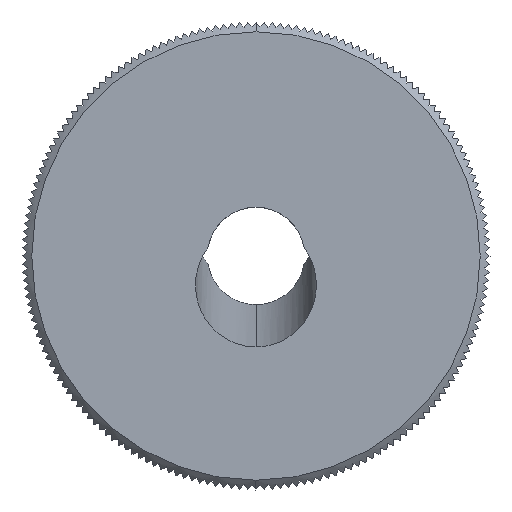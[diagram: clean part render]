
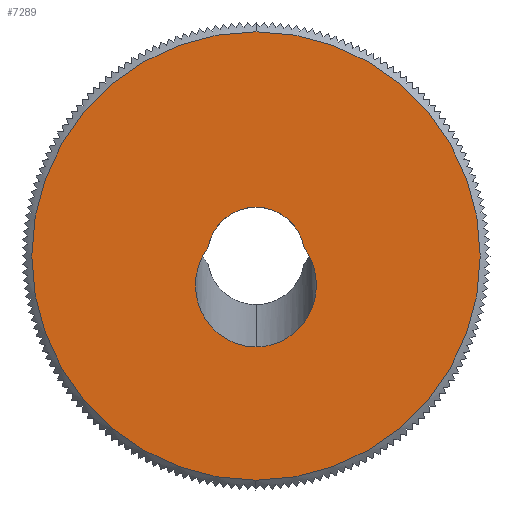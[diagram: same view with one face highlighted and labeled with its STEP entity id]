
A CAD part, left-side view. The second image highlights one B-rep face of the part: STEP entity #7289.
In plain terms, the highlighted planar face has unit normal (-1, 0, 0).
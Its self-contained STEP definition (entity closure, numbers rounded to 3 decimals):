
#3178 = CARTESIAN_POINT ( 'NONE',  ( -10., 0., 2.5 ) ) ;
#3493 = PLANE ( 'NONE',  #3552 ) ;
#3494 = FACE_OUTER_BOUND ( 'NONE', #7277, .T. ) ;
#3495 = FACE_BOUND ( 'NONE', #7195, .T. ) ;
#3530 = DIRECTION ( 'NONE',  ( 0., 0., -1. ) ) ;
#3531 = DIRECTION ( 'NONE',  ( -1., 0., 0. ) ) ;
#3532 = CARTESIAN_POINT ( 'NONE',  ( -10., 0., 0. ) ) ;
#3533 = AXIS2_PLACEMENT_3D ( 'NONE', #3532, #3531, #3530 ) ;
#3534 = CIRCLE ( 'NONE', #3533, 11.5 ) ;
#3549 = DIRECTION ( 'NONE',  ( 0., 0., -1. ) ) ;
#3550 = DIRECTION ( 'NONE',  ( 1., 0., 0. ) ) ;
#3551 = CARTESIAN_POINT ( 'NONE',  ( -10., 0., 0. ) ) ;
#3552 = AXIS2_PLACEMENT_3D ( 'NONE', #3551, #3550, #3549 ) ;
#3663 = DIRECTION ( 'NONE',  ( 0., 0., 1. ) ) ;
#3664 = DIRECTION ( 'NONE',  ( -1., 0., 0. ) ) ;
#3665 = CARTESIAN_POINT ( 'NONE',  ( -10., 0., 0. ) ) ;
#3666 = AXIS2_PLACEMENT_3D ( 'NONE', #3665, #3664, #3663 ) ;
#3667 = CIRCLE ( 'NONE', #3666, 2.5 ) ;
#3668 = CARTESIAN_POINT ( 'NONE',  ( -10., 2.462, 0.434 ) ) ;
#3669 = CARTESIAN_POINT ( 'NONE',  ( -10., 4.253, -1.959 ) ) ;
#3670 = CARTESIAN_POINT ( 'NONE',  ( -10., 2.948, -4.661 ) ) ;
#3671 = CARTESIAN_POINT ( 'NONE',  ( -10., 0., -4.661 ) ) ;
#3672 =( BOUNDED_CURVE ( )  B_SPLINE_CURVE ( 3, ( #3671, #3670, #3669, #3668 ),
 .UNSPECIFIED., .F., .T. ) 
 B_SPLINE_CURVE_WITH_KNOTS ( ( 4, 4 ),
 ( 3.142, 5.365 ),
 .UNSPECIFIED. ) 
 CURVE ( )  GEOMETRIC_REPRESENTATION_ITEM ( )  RATIONAL_B_SPLINE_CURVE ( ( 1., 0.629, 0.629, 1. ) ) 
 REPRESENTATION_ITEM ( '' )  );
#4274 = CARTESIAN_POINT ( 'NONE',  ( -10., 0., -4.661 ) ) ;
#4730 = CARTESIAN_POINT ( 'NONE',  ( -10., 0., -4.661 ) ) ;
#4731 = CARTESIAN_POINT ( 'NONE',  ( -10., -2.948, -4.661 ) ) ;
#4732 = CARTESIAN_POINT ( 'NONE',  ( -10., -4.253, -1.959 ) ) ;
#4733 = CARTESIAN_POINT ( 'NONE',  ( -10., -2.462, 0.434 ) ) ;
#4734 =( BOUNDED_CURVE ( )  B_SPLINE_CURVE ( 3, ( #4733, #4732, #4731, #4730 ),
 .UNSPECIFIED., .F., .T. ) 
 B_SPLINE_CURVE_WITH_KNOTS ( ( 4, 4 ),
 ( 0.918, 3.142 ),
 .UNSPECIFIED. ) 
 CURVE ( )  GEOMETRIC_REPRESENTATION_ITEM ( )  RATIONAL_B_SPLINE_CURVE ( ( 1., 0.629, 0.629, 1. ) ) 
 REPRESENTATION_ITEM ( '' )  );
#5387 = DIRECTION ( 'NONE',  ( 0., 0., 1. ) ) ;
#5388 = DIRECTION ( 'NONE',  ( -1., 0., 0. ) ) ;
#5389 = AXIS2_PLACEMENT_3D ( 'NONE', #5396, #5388, #5387 ) ;
#5390 = CIRCLE ( 'NONE', #5389, 2.5 ) ;
#5396 = CARTESIAN_POINT ( 'NONE',  ( -10., 0., 0. ) ) ;
#5490 = CARTESIAN_POINT ( 'NONE',  ( -10., -2.462, 0.434 ) ) ;
#6803 = CARTESIAN_POINT ( 'NONE',  ( -10., 2.462, 0.434 ) ) ;
#7096 = VERTEX_POINT ( 'NONE', #3178 ) ;
#7195 = EDGE_LOOP ( 'NONE', ( #7196, #7366, #7367, #7321 ) ) ;
#7196 = ORIENTED_EDGE ( 'NONE', *, *, #7370, .F. ) ;
#7264 = ORIENTED_EDGE ( 'NONE', *, *, #11909, .T. ) ;
#7270 = ORIENTED_EDGE ( 'NONE', *, *, #7303, .T. ) ;
#7277 = EDGE_LOOP ( 'NONE', ( #7270, #7264 ) ) ;
#7289 = ADVANCED_FACE ( 'NONE', ( #3495, #3494 ), #3493, .F. ) ;
#7303 = EDGE_CURVE ( 'NONE', #11911, #11910, #3534, .T. ) ;
#7321 = ORIENTED_EDGE ( 'NONE', *, *, #10832, .F. ) ;
#7366 = ORIENTED_EDGE ( 'NONE', *, *, #10515, .T. ) ;
#7367 = ORIENTED_EDGE ( 'NONE', *, *, #7368, .T. ) ;
#7368 = EDGE_CURVE ( 'NONE', #10261, #11560, #3672, .T. ) ;
#7370 = EDGE_CURVE ( 'NONE', #10867, #7096, #3667, .T. ) ;
#7960 = CARTESIAN_POINT ( 'NONE',  ( -10., 0., -11.5 ) ) ;
#7961 = CARTESIAN_POINT ( 'NONE',  ( -10., 0., 11.5 ) ) ;
#7962 = DIRECTION ( 'NONE',  ( 0., 0., -1. ) ) ;
#7963 = DIRECTION ( 'NONE',  ( -1., 0., 0. ) ) ;
#7964 = CARTESIAN_POINT ( 'NONE',  ( -10., 0., 0. ) ) ;
#7965 = AXIS2_PLACEMENT_3D ( 'NONE', #7964, #7963, #7962 ) ;
#7966 = CIRCLE ( 'NONE', #7965, 11.5 ) ;
#10261 = VERTEX_POINT ( 'NONE', #4274 ) ;
#10515 = EDGE_CURVE ( 'NONE', #10867, #10261, #4734, .T. ) ;
#10832 = EDGE_CURVE ( 'NONE', #7096, #11560, #5390, .T. ) ;
#10867 = VERTEX_POINT ( 'NONE', #5490 ) ;
#11560 = VERTEX_POINT ( 'NONE', #6803 ) ;
#11909 = EDGE_CURVE ( 'NONE', #11910, #11911, #7966, .T. ) ;
#11910 = VERTEX_POINT ( 'NONE', #7961 ) ;
#11911 = VERTEX_POINT ( 'NONE', #7960 ) ;
